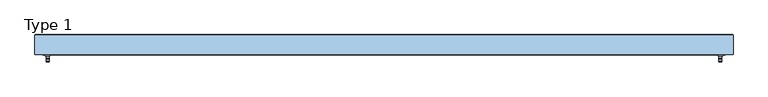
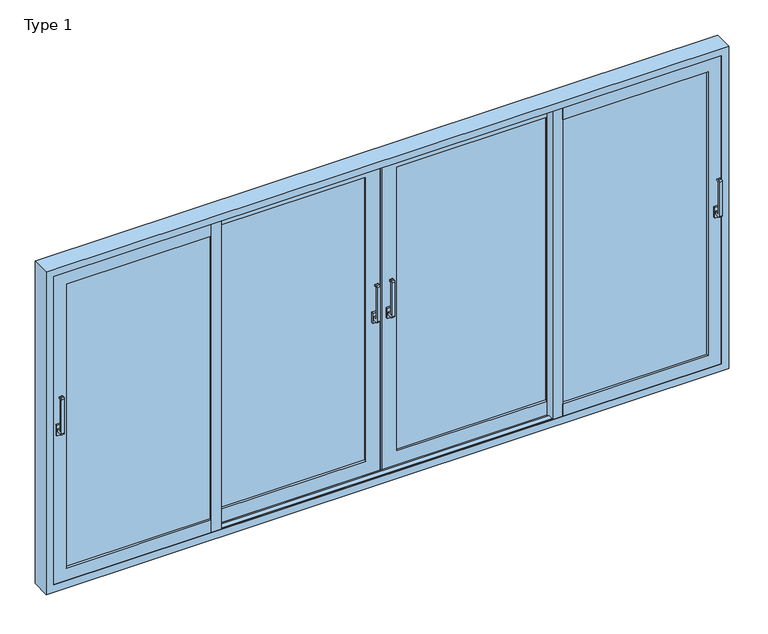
"""IFC4 building model written with IfcOpenShell, lengths in millimetres: window geometry, ETEM_E50_Quadruple_Lift_Sliding_NI : Type 1."""

import ifcopenshell
import ifcopenshell.guid

model = None  # the IFC model being written
_history = None  # IfcOwnerHistory: only IFC2X3 demands one
_inside = {}  # id of a spatial element -> (the spatial element, [elements in it])
_under = {}  # id of a project, library or spatial element -> (it, [spatial elements below it])
_declared = {}  # id of a project -> (the project, [libraries it declares])
_typed = {}  # id of a type object -> (the type object, [elements of that type])
_made_of = {}  # id of a material, layer set ... -> (it, [elements and type objects made of it])


def new_model(schema):
    """Start an empty IFC model of exactly this schema.

    Asked for "IFC4X3", IfcOpenShell would pick the latest addendum, in which some entities
    have other attributes; the version numbers below select the first issue.
    IFC2X3 requires an IfcOwnerHistory on every rooted entity: one is made here for all.
    """
    global model, _history
    if schema == "IFC4X3":
        model = ifcopenshell.file(schema_version=(4, 3, 0, 0))
    else:
        model = ifcopenshell.file(schema=schema)
    _inside.clear()
    _under.clear()
    _declared.clear()
    _typed.clear()
    _made_of.clear()
    _history = None
    if model.schema == "IFC2X3":
        org = make("IfcOrganization", Name="unknown")
        user = make(
            "IfcPersonAndOrganization",
            ThePerson=make("IfcPerson", FamilyName="unknown"),
            TheOrganization=org,
        )
        app = make(
            "IfcApplication",
            ApplicationDeveloper=org,
            Version="unknown",
            ApplicationFullName="unknown",
            ApplicationIdentifier="unknown",
        )
        _history = make(
            "IfcOwnerHistory",
            OwningUser=user,
            OwningApplication=app,
            ChangeAction="ADDED",
            CreationDate=0,
        )
    return model


def make(cls, **values):
    """One entity of the class cls with the attributes given. An attribute that is None is left unset."""
    return model.create_entity(
        cls, **{name: value for name, value in values.items() if value is not None}
    )


def rooted(cls, **values):
    """An entity with a GlobalId (a new one), such as an element, a storey or a relation."""
    return make(cls, GlobalId=ifcopenshell.guid.new(), OwnerHistory=_history, **values)


def si_unit(unit_type, name, prefix=None):
    """IfcSIUnit, for example si_unit("LENGTHUNIT", "METRE", prefix="MILLI")."""
    return make("IfcSIUnit", UnitType=unit_type, Prefix=prefix, Name=name)


def assignment(units):
    """IfcUnitAssignment: the units of a project."""
    return None if units is None else make("IfcUnitAssignment", Units=units)


def point(xyz):
    """IfcCartesianPoint."""
    return None if xyz is None else make("IfcCartesianPoint", Coordinates=xyz)


def direction(xyz):
    """IfcDirection."""
    return None if xyz is None else make("IfcDirection", DirectionRatios=xyz)


def frame(location, z_axis=None, x_axis=None):
    """IfcAxis2Placement3D, a coordinate frame: its origin and axes. An axis left out is left unset."""
    return make(
        "IfcAxis2Placement3D",
        Location=point(location),
        Axis=direction(z_axis),
        RefDirection=direction(x_axis),
    )


def frame_2d(location, x_axis=None):
    """IfcAxis2Placement2D, a coordinate frame in the plane: its origin and x axis."""
    return make(
        "IfcAxis2Placement2D", Location=point(location), RefDirection=direction(x_axis)
    )


def origin():
    """The frame at (0, 0, 0) with its axes left unset."""
    return frame((0.0, 0.0, 0.0))


def place(relative_to, where):
    """IfcLocalPlacement: puts the frame where relative to a parent placement (None: the world)."""
    return make(
        "IfcLocalPlacement", PlacementRelTo=relative_to, RelativePlacement=where
    )


def context(
    kind, dimensions, precision=None, world=None, true_north=None, identifier=None
):
    """IfcGeometricRepresentationContext, for example the 3D "Model" context."""
    return make(
        "IfcGeometricRepresentationContext",
        ContextIdentifier=identifier,
        ContextType=kind,
        CoordinateSpaceDimension=dimensions,
        Precision=precision,
        WorldCoordinateSystem=world,
        TrueNorth=true_north,
    )


def project(units=None, contexts=None):
    """IfcProject with its units and contexts."""
    return rooted(
        "IfcProject",
        Name="project",
        RepresentationContexts=contexts,
        UnitsInContext=assignment(units),
    )


def spatial(cls, under=None, at=None, **own):
    """A site, building, storey or space (cls), placed at a placement, below another one or the project."""
    s = rooted(cls, ObjectPlacement=at, **own)
    if under is not None:
        _under.setdefault(under.id(), (under, []))[1].append(s)
    return s


def polyline(points):
    """IfcPolyline through the points."""
    return make("IfcPolyline", Points=[point(p) for p in points])


def circle_curve(where, radius):
    """IfcCircle in the frame where."""
    return make("IfcCircle", Position=where, Radius=radius)


def trimmed(basis, trim1, trim2, sense, master):
    """IfcTrimmedCurve: the piece of a basis curve between two trims."""
    return make(
        "IfcTrimmedCurve",
        BasisCurve=basis,
        Trim1=trim1,
        Trim2=trim2,
        SenseAgreement=sense,
        MasterRepresentation=master,
    )


def segment(curve, same_sense, transition):
    """IfcCompositeCurveSegment."""
    return make(
        "IfcCompositeCurveSegment",
        Transition=transition,
        SameSense=same_sense,
        ParentCurve=curve,
    )


def composite_curve(segments, self_intersect=None):
    """IfcCompositeCurve: segments joined end to end."""
    return make("IfcCompositeCurve", Segments=segments, SelfIntersect=self_intersect)


def outline(outer, holes=None, kind="AREA"):
    """IfcArbitraryClosedProfileDef: a profile drawn as a closed curve; with holes, ...WithVoids."""
    if holes is None:
        return make("IfcArbitraryClosedProfileDef", ProfileType=kind, OuterCurve=outer)
    return make(
        "IfcArbitraryProfileDefWithVoids",
        ProfileType=kind,
        OuterCurve=outer,
        InnerCurves=holes,
    )


def extrude(swept, where, along, depth):
    """IfcExtrudedAreaSolid: the profile swept, set in the frame where, extruded along a direction by depth."""
    return make(
        "IfcExtrudedAreaSolid",
        SweptArea=swept,
        Position=where,
        ExtrudedDirection=direction(along),
        Depth=depth,
    )


def faces_of(points, faces, orient=None, outer=None):
    """IfcFace entities. A face is a list of loops; a loop is a list of indices into points, from 0.

    orient and outer hold one flag for each loop. By default every Orientation is true, the
    first loop of a face is its IfcFaceOuterBound and the others are IfcFaceBound.
    """
    made = []
    for i, loops in enumerate(faces):
        bounds = []
        for j, loop in enumerate(loops):
            is_outer = j == 0 if outer is None else outer[i][j]
            bounds.append(
                make(
                    "IfcFaceOuterBound" if is_outer else "IfcFaceBound",
                    Bound=make("IfcPolyLoop", Polygon=[points[k] for k in loop]),
                    Orientation=True if orient is None else orient[i][j],
                )
            )
        made.append(make("IfcFace", Bounds=bounds))
    return made


def faceted_brep(points, faces, orient=None, outer=None, voids=None):
    """IfcFacetedBrep: a solid bounded by flat faces; with voids (closed shells), ...WithVoids."""
    shared = [point(p) for p in points]
    hull = make("IfcClosedShell", CfsFaces=faces_of(shared, faces, orient, outer))
    if voids is None:
        return make("IfcFacetedBrep", Outer=hull)
    return make(
        "IfcFacetedBrepWithVoids",
        Outer=hull,
        Voids=[
            make(cls, CfsFaces=faces_of(shared, fs, o, b)) for cls, fs, o, b in voids
        ],
    )


def shape(context_of_items, identifier, shape_type, items):
    """IfcShapeRepresentation: the items that make up one representation, for example the "Body"."""
    return make(
        "IfcShapeRepresentation",
        ContextOfItems=context_of_items,
        RepresentationIdentifier=identifier,
        RepresentationType=shape_type,
        Items=items,
    )


def source(mapping_origin, context_of_items, identifier, shape_type, items):
    """IfcRepresentationMap: a shape defined once, which mapped items show again and again."""
    return make(
        "IfcRepresentationMap",
        MappingOrigin=mapping_origin,
        MappedRepresentation=shape(context_of_items, identifier, shape_type, items),
    )


def transform(
    local_origin,
    x_axis=None,
    y_axis=None,
    z_axis=None,
    scale=None,
    scale2=None,
    scale3=None,
    uniform=True,
):
    """IfcCartesianTransformationOperator3D, or its non-uniform kind. x_axis, y_axis, z_axis: its Axis1, 2, 3."""
    if uniform:
        return make(
            "IfcCartesianTransformationOperator3D",
            Axis1=direction(x_axis),
            Axis2=direction(y_axis),
            LocalOrigin=point(local_origin),
            Scale=scale,
            Axis3=direction(z_axis),
        )
    return make(
        "IfcCartesianTransformationOperator3DnonUniform",
        Axis1=direction(x_axis),
        Axis2=direction(y_axis),
        LocalOrigin=point(local_origin),
        Scale=scale,
        Axis3=direction(z_axis),
        Scale2=scale2,
        Scale3=scale3,
    )


def mapped(mapping_source, mapping_target):
    """IfcMappedItem: shows the shape of a source again, moved by a transform."""
    return make(
        "IfcMappedItem", MappingSource=mapping_source, MappingTarget=mapping_target
    )


def made_of(thing, what):
    """Note that an element or type object is made of a material, layer set ...; save() writes the relation."""
    if what is not None:
        _made_of.setdefault(what.id(), (what, []))[1].append(thing)
    return thing


def element(
    cls,
    number,
    at=None,
    inside=None,
    cuts=None,
    type_object=None,
    material=None,
    context=None,
    identifier="Body",
    shape_type=None,
    held_by="IfcProductDefinitionShape",
    body=None,
    shapes=None,
    **own,
):
    """One element of the class cls, such as IfcWall. Its Tag is "e" and its number.

    at: its placement. inside: the storey or other place that contains it. cuts: it is an
    opening in that element (IfcRelVoidsElement). A single representation is given by context,
    identifier, shape_type and body (its items); several are given by shapes. held_by: the class
    of the entity that holds the representations. save() writes the other relations.
    """
    e = rooted(cls, Tag="e%d" % number, ObjectPlacement=at, **own)
    if body is not None:
        shapes = [shape(context, identifier, shape_type, body)]
    if shapes is not None:
        e.Representation = make(held_by, Representations=shapes)
    if inside is not None:
        _inside.setdefault(inside.id(), (inside, []))[1].append(e)
    if cuts is not None:
        rooted(
            "IfcRelVoidsElement", RelatingBuildingElement=cuts, RelatedOpeningElement=e
        )
    if type_object is not None:
        _typed.setdefault(type_object.id(), (type_object, []))[1].append(e)
    return made_of(e, material)


def aggregate(whole, parts):
    """IfcRelAggregates: a whole, such as a stair, and the parts it consists of."""
    return rooted("IfcRelAggregates", RelatingObject=whole, RelatedObjects=parts)


def save(model, path):
    """Write the relations noted so far, then the file.

    IfcRelAggregates (storeys below a building ...), IfcRelContainedInSpatialStructure (elements
    in a storey), IfcRelDefinesByType, IfcRelAssociatesMaterial and IfcRelDeclares: one each for
    every whole, place, type object, material and project.
    """
    for whole, parts in _under.values():
        aggregate(whole, parts)
    for where, things in _inside.values():
        rooted(
            "IfcRelContainedInSpatialStructure",
            RelatedElements=things,
            RelatingStructure=where,
        )
    for kind, things in _typed.values():
        rooted("IfcRelDefinesByType", RelatedObjects=things, RelatingType=kind)
    for what, things in _made_of.values():
        rooted("IfcRelAssociatesMaterial", RelatedObjects=things, RelatingMaterial=what)
    for by, libraries in _declared.values():
        rooted("IfcRelDeclares", RelatingContext=by, RelatedDefinitions=libraries)
    model.write(path)


def type_1_0126e756(model_context):
    return source(origin(), model_context, "Body", "SolidModel", [
        extrude(outline(composite_curve([segment(polyline([(-28.6518056, 1090.0), (-60.2254904, 1090.0)]), True, "CONTINUOUS"), segment(trimmed(circle_curve(frame_2d((-60.2254904, 1098.4263152)), 8.4263152), [point((-60.2254904, 1090.0))], [point((-68.6518056, 1098.4263152))], False, "CARTESIAN"), True, "CONTINUOUS"), segment(polyline([(-68.6518056, 1098.4263152), (-68.6518056, 1331.5736848)]), True, "CONTINUOUS"), segment(trimmed(circle_curve(frame_2d((-60.2254904, 1331.5736848)), 8.4263152), [point((-68.6518056, 1331.5736848))], [point((-60.2254904, 1340.0))], False, "CARTESIAN"), True, "CONTINUOUS"), segment(polyline([(-60.2254904, 1340.0), (-48.6518056, 1340.0)]), True, "CONTINUOUS"), segment(trimmed(circle_curve(frame_2d((-48.6518056, 1335.0)), 5.0), [point((-48.6518056, 1340.0))], [point((-48.6518056, 1330.0))], False, "CARTESIAN"), True, "CONTINUOUS"), segment(polyline([(-48.6518056, 1330.0), (-55.1162717, 1330.0)]), True, "CONTINUOUS"), segment(trimmed(circle_curve(frame_2d((-55.1162717, 1326.4644661)), 3.5355339), [point((-55.1162717, 1330.0))], [point((-58.6518056, 1326.4644661))], True, "CARTESIAN"), True, "CONTINUOUS"), segment(polyline([(-58.6518056, 1326.4644661), (-58.6518056, 1113.5355339)]), True, "CONTINUOUS"), segment(trimmed(circle_curve(frame_2d((-55.1162717, 1113.5355339)), 3.5355339), [point((-58.6518056, 1113.5355339))], [point((-55.1162717, 1110.0))], True, "CARTESIAN"), True, "CONTINUOUS"), segment(polyline([(-55.1162717, 1110.0), (-28.6518056, 1110.0), (-28.6518056, 1090.0)]), True, "CONTINUOUS")], self_intersect=False)), frame((2109.999965, 0.0, 0.0), z_axis=(1.0, 0.0, 0.0), x_axis=(0.0, 1.0, 0.0)), (0.0, 0.0, 1.0), 20.0),
        extrude(outline(polyline([(2104.999965, -28.6518056), (2104.999965, -15.6518056), (2134.999965, -15.6518056), (2134.999965, -28.6518056), (2104.999965, -28.6518056)])), frame((0.0, 0.0, 1065.0), z_axis=(0.0, 0.0, 1.0), x_axis=(1.0, 0.0, 0.0)), (0.0, 0.0, 1.0), 70.0),
        extrude(outline(composite_curve([segment(polyline([(-28.6518056, 1090.0), (-60.2254904, 1090.0)]), True, "CONTINUOUS"), segment(trimmed(circle_curve(frame_2d((-60.2254904, 1098.4263152)), 8.4263152), [point((-60.2254904, 1090.0))], [point((-68.6518056, 1098.4263152))], False, "CARTESIAN"), True, "CONTINUOUS"), segment(polyline([(-68.6518056, 1098.4263152), (-68.6518056, 1331.5736848)]), True, "CONTINUOUS"), segment(trimmed(circle_curve(frame_2d((-60.2254904, 1331.5736848)), 8.4263152), [point((-68.6518056, 1331.5736848))], [point((-60.2254904, 1340.0))], False, "CARTESIAN"), True, "CONTINUOUS"), segment(polyline([(-60.2254904, 1340.0), (-48.6518056, 1340.0)]), True, "CONTINUOUS"), segment(trimmed(circle_curve(frame_2d((-48.6518056, 1335.0)), 5.0), [point((-48.6518056, 1340.0))], [point((-48.6518056, 1330.0))], False, "CARTESIAN"), True, "CONTINUOUS"), segment(polyline([(-48.6518056, 1330.0), (-55.1162717, 1330.0)]), True, "CONTINUOUS"), segment(trimmed(circle_curve(frame_2d((-55.1162717, 1326.4644661)), 3.5355339), [point((-55.1162717, 1330.0))], [point((-58.6518056, 1326.4644661))], True, "CARTESIAN"), True, "CONTINUOUS"), segment(polyline([(-58.6518056, 1326.4644661), (-58.6518056, 1113.5355339)]), True, "CONTINUOUS"), segment(trimmed(circle_curve(frame_2d((-55.1162717, 1113.5355339)), 3.5355339), [point((-58.6518056, 1113.5355339))], [point((-55.1162717, 1110.0))], True, "CARTESIAN"), True, "CONTINUOUS"), segment(polyline([(-55.1162717, 1110.0), (-28.6518056, 1110.0), (-28.6518056, 1090.0)]), True, "CONTINUOUS")], self_intersect=False)), frame((-2129.999965, 0.0, 0.0), z_axis=(1.0, 0.0, 0.0), x_axis=(0.0, 1.0, 0.0)), (0.0, 0.0, 1.0), 20.0),
        extrude(outline(polyline([(-2134.999965, -28.6518056), (-2134.999965, -15.6518056), (-2104.999965, -15.6518056), (-2104.999965, -28.6518056), (-2134.999965, -28.6518056)])), frame((0.0, 0.0, 1065.0), z_axis=(0.0, 0.0, 1.0), x_axis=(1.0, 0.0, 0.0)), (0.0, 0.0, 1.0), 70.0),
        extrude(outline(composite_curve([segment(polyline([(36.3364319, 1090.0), (4.7627471, 1090.0)]), True, "CONTINUOUS"), segment(trimmed(circle_curve(frame_2d((4.7627471, 1098.4263152)), 8.4263152), [point((4.7627471, 1090.0))], [point((-3.6635681, 1098.4263152))], False, "CARTESIAN"), True, "CONTINUOUS"), segment(polyline([(-3.6635681, 1098.4263152), (-3.6635681, 1331.5736848)]), True, "CONTINUOUS"), segment(trimmed(circle_curve(frame_2d((4.7627471, 1331.5736848)), 8.4263152), [point((-3.6635681, 1331.5736848))], [point((4.7627471, 1340.0))], False, "CARTESIAN"), True, "CONTINUOUS"), segment(polyline([(4.7627471, 1340.0), (16.3364319, 1340.0)]), True, "CONTINUOUS"), segment(trimmed(circle_curve(frame_2d((16.3364319, 1335.0)), 5.0), [point((16.3364319, 1340.0))], [point((16.3364319, 1330.0))], False, "CARTESIAN"), True, "CONTINUOUS"), segment(polyline([(16.3364319, 1330.0), (9.8719658, 1330.0)]), True, "CONTINUOUS"), segment(trimmed(circle_curve(frame_2d((9.8719658, 1326.4644661)), 3.5355339), [point((9.8719658, 1330.0))], [point((6.3364319, 1326.4644661))], True, "CARTESIAN"), True, "CONTINUOUS"), segment(polyline([(6.3364319, 1326.4644661), (6.3364319, 1113.5355339)]), True, "CONTINUOUS"), segment(trimmed(circle_curve(frame_2d((9.8719658, 1113.5355339)), 3.5355339), [point((6.3364319, 1113.5355339))], [point((9.8719658, 1110.0))], True, "CARTESIAN"), True, "CONTINUOUS"), segment(polyline([(9.8719658, 1110.0), (36.3364319, 1110.0), (36.3364319, 1090.0)]), True, "CONTINUOUS")], self_intersect=False)), frame((-57.5, 0.0, 0.0), z_axis=(1.0, 0.0, 0.0), x_axis=(0.0, 1.0, 0.0)), (0.0, 0.0, 1.0), 20.0),
        extrude(outline(polyline([(-62.5, 36.3364319), (-62.5, 49.3364319), (-32.5, 49.3364319), (-32.5, 36.3364319), (-62.5, 36.3364319)])), frame((0.0, 0.0, 1065.0), z_axis=(0.0, 0.0, 1.0), x_axis=(1.0, 0.0, 0.0)), (0.0, 0.0, 1.0), 70.0),
        extrude(outline(composite_curve([segment(polyline([(36.3364319, 1090.0), (4.7627471, 1090.0)]), True, "CONTINUOUS"), segment(trimmed(circle_curve(frame_2d((4.7627471, 1098.4263152)), 8.4263152), [point((4.7627471, 1090.0))], [point((-3.6635681, 1098.4263152))], False, "CARTESIAN"), True, "CONTINUOUS"), segment(polyline([(-3.6635681, 1098.4263152), (-3.6635681, 1331.5736848)]), True, "CONTINUOUS"), segment(trimmed(circle_curve(frame_2d((4.7627471, 1331.5736848)), 8.4263152), [point((-3.6635681, 1331.5736848))], [point((4.7627471, 1340.0))], False, "CARTESIAN"), True, "CONTINUOUS"), segment(polyline([(4.7627471, 1340.0), (16.3364319, 1340.0)]), True, "CONTINUOUS"), segment(trimmed(circle_curve(frame_2d((16.3364319, 1335.0)), 5.0), [point((16.3364319, 1340.0))], [point((16.3364319, 1330.0))], False, "CARTESIAN"), True, "CONTINUOUS"), segment(polyline([(16.3364319, 1330.0), (9.8719658, 1330.0)]), True, "CONTINUOUS"), segment(trimmed(circle_curve(frame_2d((9.8719658, 1326.4644661)), 3.5355339), [point((9.8719658, 1330.0))], [point((6.3364319, 1326.4644661))], True, "CARTESIAN"), True, "CONTINUOUS"), segment(polyline([(6.3364319, 1326.4644661), (6.3364319, 1113.5355339)]), True, "CONTINUOUS"), segment(trimmed(circle_curve(frame_2d((9.8719658, 1113.5355339)), 3.5355339), [point((6.3364319, 1113.5355339))], [point((9.8719658, 1110.0))], True, "CARTESIAN"), True, "CONTINUOUS"), segment(polyline([(9.8719658, 1110.0), (36.3364319, 1110.0), (36.3364319, 1090.0)]), True, "CONTINUOUS")], self_intersect=False)), frame((37.5, 0.0, 0.0), z_axis=(1.0, 0.0, 0.0), x_axis=(0.0, 1.0, 0.0)), (0.0, 0.0, 1.0), 20.0),
        extrude(outline(polyline([(62.5, 36.3364319), (32.5, 36.3364319), (32.5, 49.3364319), (62.5, 49.3364319), (62.5, 36.3364319)])), frame((0.0, 0.0, 1065.0), z_axis=(0.0, 0.0, 1.0), x_axis=(1.0, 0.0, 0.0)), (0.0, 0.0, 1.0), 70.0),
        faceted_brep([(1067.5, 99.3364319, 131.0), (1067.5, 49.3364319, 131.0), (1067.5, 49.3364319, 39.5), (1067.5, 54.0364319, 39.5), (1067.5, 54.0364319, 68.7), (1067.5, 94.6364319, 68.7), (1067.5, 94.6364319, 39.5), (1067.5, 99.3364319, 39.5), (1067.5, 99.3364319, 2069.0), (1067.5, 99.3364319, 2160.5), (1067.5, 94.6364319, 2160.5), (1067.5, 94.6364319, 2131.3), (1067.5, 54.0364319, 2131.3), (1067.5, 54.0364319, 2160.5), (1067.5, 49.3364319, 2160.5), (1067.5, 49.3364319, 2069.0), (98.5, 99.3364319, 131.0), (98.5, 49.3364319, 131.0), (98.5, 49.3364319, 2069.0), (7.0, 49.3364319, 2160.5), (7.0, 49.3364319, 39.5), (7.0, 54.0364319, 39.5), (7.0, 54.0364319, 2160.5), (36.2, 54.0364319, 2131.3), (36.2, 54.0364319, 68.7), (36.2, 94.6364319, 68.7), (36.2, 94.6364319, 2131.3), (7.0, 94.6364319, 2160.5), (7.0, 94.6364319, 39.5), (7.0, 99.3364319, 39.5), (7.0, 99.3364319, 2160.5), (98.5, 99.3364319, 2069.0)], [[[0, 1, 2, 3, 4, 5, 6, 7]], [[8, 9, 10, 11, 12, 13, 14, 15]], [[1, 0, 16, 17]], [[2, 1, 17, 18, 15, 14, 19, 20]], [[3, 2, 20, 21]], [[4, 3, 21, 22, 13, 12, 23, 24]], [[5, 4, 24, 25]], [[6, 5, 25, 26, 11, 10, 27, 28]], [[7, 6, 28, 29]], [[0, 7, 29, 30, 9, 8, 31, 16]], [[17, 16, 31, 18]], [[21, 20, 19, 22]], [[25, 24, 23, 26]], [[29, 28, 27, 30]], [[18, 31, 8, 15]], [[22, 19, 14, 13]], [[26, 23, 12, 11]], [[30, 27, 10, 9]]]),
        extrude(outline(polyline([(98.5, 91.3215999), (1067.5, 91.3215999), (1067.5, 86.3215999), (98.5, 86.3215999), (98.5, 91.3215999)])), frame((0.0, 0.0, 131.0), z_axis=(0.0, 0.0, 1.0), x_axis=(1.0, 0.0, 0.0)), (0.0, 0.0, 1.0), 1938.0),
        extrude(outline(polyline([(1132.5, 26.3481944), (2068.999965, 26.3481944), (2068.999965, 21.3481944), (1132.5, 21.3481944), (1132.5, 26.3481944)])), frame((0.0, 0.0, 131.0), z_axis=(0.0, 0.0, 1.0), x_axis=(1.0, 0.0, 0.0)), (0.0, 0.0, 1.0), 1938.0),
        extrude(outline(polyline([(98.5, 70.321721), (1067.5, 70.321721), (1067.5, 65.321721), (98.5, 65.321721), (98.5, 70.321721)])), frame((0.0, 0.0, 131.0), z_axis=(0.0, 0.0, 1.0), x_axis=(1.0, 0.0, 0.0)), (0.0, 0.0, 1.0), 1938.0),
        extrude(outline(polyline([(1132.5, 5.3481944), (2068.999965, 5.3481944), (2068.999965, 0.3481944), (1132.5, 0.3481944), (1132.5, 5.3481944)])), frame((0.0, 0.0, 131.0), z_axis=(0.0, 0.0, 1.0), x_axis=(1.0, 0.0, 0.0)), (0.0, 0.0, 1.0), 1938.0),
        faceted_brep([(-1067.3591001, 99.3364319, 131.0), (-1067.3591001, 99.3364319, 39.5), (-1067.3591001, 94.6364319, 39.5), (-1067.3591001, 94.6364319, 68.7), (-1067.3591001, 54.0364319, 68.7), (-1067.3591001, 54.0364319, 39.5), (-1067.3591001, 49.3364319, 39.5), (-1067.3591001, 49.3364319, 131.0), (-1067.3591001, 99.3364319, 2069.0), (-1067.3591001, 49.3364319, 2069.0), (-1067.3591001, 49.3364319, 2160.5), (-1067.3591001, 54.0364319, 2160.5), (-1067.3591001, 54.0364319, 2131.3), (-1067.3591001, 94.6364319, 2131.3), (-1067.3591001, 94.6364319, 2160.5), (-1067.3591001, 99.3364319, 2160.5), (-7.0, 99.3364319, 2160.5), (-7.0, 99.3364319, 39.5), (-98.5, 99.3364319, 131.0), (-98.5, 99.3364319, 2069.0), (-7.0, 94.6364319, 39.5), (-36.2, 94.6364319, 2131.3), (-36.2, 94.6364319, 68.7), (-7.0, 94.6364319, 2160.5), (-36.2, 54.0364319, 68.7), (-7.0, 54.0364319, 2160.5), (-7.0, 54.0364319, 39.5), (-36.2, 54.0364319, 2131.3), (-7.0, 49.3364319, 39.5), (-98.5, 49.3364319, 2069.0), (-98.5, 49.3364319, 131.0), (-7.0, 49.3364319, 2160.5)], [[[0, 1, 2, 3, 4, 5, 6, 7]], [[8, 9, 10, 11, 12, 13, 14, 15]], [[8, 15, 16, 17, 1, 0, 18, 19]], [[17, 20, 2, 1]], [[14, 13, 21, 22, 3, 2, 20, 23]], [[22, 24, 4, 3]], [[12, 11, 25, 26, 5, 4, 24, 27]], [[26, 28, 6, 5]], [[10, 9, 29, 30, 7, 6, 28, 31]], [[30, 18, 0, 7]], [[29, 19, 18, 30]], [[25, 31, 28, 26]], [[21, 27, 24, 22]], [[16, 23, 20, 17]], [[9, 8, 19, 29]], [[11, 10, 31, 25]], [[13, 12, 27, 21]], [[15, 14, 23, 16]]]),
        extrude(outline(polyline([(-1067.3591001, 91.3480733), (-98.5, 91.3480733), (-98.5, 86.3480733), (-1067.3591001, 86.3480733), (-1067.3591001, 91.3480733)])), frame((0.0, 0.0, 131.0), z_axis=(0.0, 0.0, 1.0), x_axis=(1.0, 0.0, 0.0)), (0.0, 0.0, 1.0), 1938.0),
        extrude(outline(polyline([(-1067.3591001, 70.3481944), (-98.5, 70.3481944), (-98.5, 65.3481944), (-1067.3591001, 65.3481944), (-1067.3591001, 70.3481944)])), frame((0.0, 0.0, 131.0), z_axis=(0.0, 0.0, 1.0), x_axis=(1.0, 0.0, 0.0)), (0.0, 0.0, 1.0), 1938.0),
        extrude(outline(polyline([(-1067.3591001, -15.6518056), (-1132.3591001, -15.6518056), (-1132.3591001, 34.3481944), (-1097.3091001, 34.3481944), (-1097.3091001, 41.8740972), (-1100.0, 41.8740972), (-1100.0, 43.7481944), (-1095.4591001, 43.7481944), (-1095.4591001, 39.0481944), (-1084.1091001, 39.0481944), (-1084.1091001, 45.3481944), (-1067.3591001, 45.3481944), (-1067.3591001, -15.6518056)])), frame((0.0, 0.0, 39.5), z_axis=(0.0, 0.0, 1.0), x_axis=(1.0, 0.0, 0.0)), (0.0, 0.0, 1.0), 2121.0),
        extrude(outline(polyline([(-2068.999965, 26.3480733), (-1132.3591001, 26.3480733), (-1132.3591001, 21.3480733), (-2068.999965, 21.3480733), (-2068.999965, 26.3480733)])), frame((0.0, 0.0, 131.0), z_axis=(0.0, 0.0, 1.0), x_axis=(1.0, 0.0, 0.0)), (0.0, 0.0, 1.0), 1938.0),
        extrude(outline(polyline([(-2068.999965, 5.3481944), (-1132.3591001, 5.3481944), (-1132.3591001, 0.3481944), (-2068.999965, 0.3481944), (-2068.999965, 5.3481944)])), frame((0.0, 0.0, 131.0), z_axis=(0.0, 0.0, 1.0), x_axis=(1.0, 0.0, 0.0)), (0.0, 0.0, 1.0), 1938.0),
        extrude(outline(polyline([(3.5, 58.3364319), (3.5, 49.3364319), (-7.0, 49.3364319), (-7.0, 99.3364319), (3.5, 99.3364319), (3.5, 90.3364319), (16.0, 90.3364319), (16.0, 58.3364319), (3.5, 58.3364319)])), frame((0.0, 0.0, 39.5188293), z_axis=(0.0, 0.0, 1.0), x_axis=(1.0, 0.0, 0.0)), (0.0, 0.0, 1.0), 2120.9623414),
        faceted_brep([(1132.5, 34.3481944, 131.0), (1132.5, 34.3481944, 39.5), (1132.5, 29.6481944, 39.5), (1132.5, 29.6481944, 68.7), (1132.5, -10.9518056, 68.7), (1132.5, -10.9518056, 39.5), (1132.5, -15.6518056, 39.5), (1132.5, -15.6518056, 131.0), (1132.5, 34.3481944, 2069.0), (1132.5, -15.6518056, 2069.0), (1132.5, -15.6518056, 2160.5), (1132.5, -10.9518056, 2160.5), (1132.5, -10.9518056, 2131.3), (1132.5, 29.6481944, 2131.3), (1132.5, 29.6481944, 2160.5), (1132.5, 34.3481944, 2160.5), (2160.499965, 34.3481944, 2160.5), (2160.499965, 34.3481944, 39.5), (2068.999965, 34.3481944, 131.0), (2068.999965, 34.3481944, 2069.0), (2160.499965, 29.6481944, 39.5), (2131.299965, 29.6481944, 2131.3), (2131.299965, 29.6481944, 68.7), (2160.499965, 29.6481944, 2160.5), (2131.299965, -10.9518056, 68.7), (2160.499965, -10.9518056, 2160.5), (2160.499965, -10.9518056, 39.5), (2131.299965, -10.9518056, 2131.3), (2160.499965, -15.6518056, 39.5), (2068.999965, -15.6518056, 2069.0), (2068.999965, -15.6518056, 131.0), (2160.499965, -15.6518056, 2160.5)], [[[0, 1, 2, 3, 4, 5, 6, 7]], [[8, 9, 10, 11, 12, 13, 14, 15]], [[8, 15, 16, 17, 1, 0, 18, 19]], [[17, 20, 2, 1]], [[14, 13, 21, 22, 3, 2, 20, 23]], [[22, 24, 4, 3]], [[12, 11, 25, 26, 5, 4, 24, 27]], [[26, 28, 6, 5]], [[10, 9, 29, 30, 7, 6, 28, 31]], [[30, 18, 0, 7]], [[29, 19, 18, 30]], [[25, 31, 28, 26]], [[21, 27, 24, 22]], [[16, 23, 20, 17]], [[9, 8, 19, 29]], [[11, 10, 31, 25]], [[13, 12, 27, 21]], [[15, 14, 23, 16]]]),
        faceted_brep([(-1132.3591001, 34.3481944, 131.0), (-1132.3591001, -15.6518056, 131.0), (-1132.3591001, -15.6518056, 39.5), (-1132.3591001, -10.9518056, 39.5), (-1132.3591001, -10.9518056, 68.7), (-1132.3591001, 29.6481944, 68.7), (-1132.3591001, 29.6481944, 39.5), (-1132.3591001, 34.3481944, 39.5), (-1132.3591001, 34.3481944, 2069.0), (-1132.3591001, 34.3481944, 2160.5), (-1132.3591001, 29.6481944, 2160.5), (-1132.3591001, 29.6481944, 2131.3), (-1132.3591001, -10.9518056, 2131.3), (-1132.3591001, -10.9518056, 2160.5), (-1132.3591001, -15.6518056, 2160.5), (-1132.3591001, -15.6518056, 2069.0), (-2068.999965, 34.3481944, 131.0), (-2068.999965, -15.6518056, 131.0), (-2160.499965, -15.6518056, 2160.5), (-2160.499965, -15.6518056, 39.5), (-2068.999965, -15.6518056, 2069.0), (-2160.499965, -10.9518056, 39.5), (-2131.299965, -10.9518056, 2131.3), (-2131.299965, -10.9518056, 68.7), (-2160.499965, -10.9518056, 2160.5), (-2131.299965, 29.6481944, 68.7), (-2160.499965, 29.6481944, 2160.5), (-2160.499965, 29.6481944, 39.5), (-2131.299965, 29.6481944, 2131.3), (-2160.499965, 34.3481944, 39.5), (-2068.999965, 34.3481944, 2069.0), (-2160.499965, 34.3481944, 2160.5)], [[[0, 1, 2, 3, 4, 5, 6, 7]], [[8, 9, 10, 11, 12, 13, 14, 15]], [[16, 17, 1, 0]], [[15, 14, 18, 19, 2, 1, 17, 20]], [[19, 21, 3, 2]], [[13, 12, 22, 23, 4, 3, 21, 24]], [[23, 25, 5, 4]], [[11, 10, 26, 27, 6, 5, 25, 28]], [[27, 29, 7, 6]], [[9, 8, 30, 16, 0, 7, 29, 31]], [[30, 20, 17, 16]], [[26, 31, 29, 27]], [[22, 28, 25, 23]], [[18, 24, 21, 19]], [[10, 9, 31, 26]], [[12, 11, 28, 22]], [[14, 13, 24, 18]], [[8, 15, 20, 30]]]),
        faceted_brep([(-2196.5, 103.5481944, 0.0), (-2196.5, 105.0, 0.0), (-2151.5, 105.0, 0.0), (-2151.5, 103.5481944, 0.0), (2151.5, 103.5481944, 0.0), (2151.5, 105.0, 0.0), (2196.5, 105.0, 0.0), (2196.5, 103.5481944, 0.0), (2200.0, 103.5481944, 0.0), (2200.0, -21.2518056, 0.0), (-2200.0, -21.2518056, 0.0), (-2200.0, 103.5481944, 0.0), (-2151.5, 101.4, 2151.5), (2151.5, 101.4, 2151.5), (2151.5, 101.4, 19.8), (2178.2, 101.4, 19.8), (2178.2, 101.4, 2178.2), (-2178.2, 101.4, 2178.2), (-2178.2, 101.4, 19.8), (-2151.5, 101.4, 19.8), (-2196.5, 103.5481944, 2196.5), (-2196.5, 105.0, 2196.5), (2196.5, 105.0, 2196.5), (2151.5, 105.0, 2151.5), (-2151.5, 105.0, 2151.5), (-2151.5, 103.5481944, 19.8), (2151.5, 103.5481944, 19.8), (2196.5, 103.5481944, 2196.5), (2200.0, 103.5481944, 2200.0), (-2200.0, 103.5481944, 2200.0), (2200.0, -21.2518056, 2200.0), (-2200.0, -21.2518056, 2200.0), (2151.5, -21.2518056, 2151.5), (2151.5, -21.2518056, 48.5), (-2151.5, -21.2518056, 48.5), (-2151.5, -21.2518056, 2151.5), (2178.2, 78.8481944, 21.8), (2178.2, 92.0481944, 21.8), (-2178.2, 92.0481944, 21.8), (-2178.2, 78.8481944, 21.8), (2178.2, 78.8481944, 2178.2), (-2178.2, 78.8481944, 2178.2), (2159.5, 78.8481944, 40.5), (2159.5, 78.8481944, 2159.5), (-2159.5, 78.8481944, 2159.5), (-2159.5, 78.8481944, 40.5), (2159.5, 90.3481944, 2159.5), (2159.5, 90.3481944, 40.5), (-2159.5, 90.3481944, 40.5), (-2159.5, 90.3481944, 2159.5), (2151.5, 90.3481944, 48.5), (2151.5, 90.3481944, 2151.5), (-2151.5, 90.3481944, 2151.5), (-2151.5, 90.3481944, 48.5), (2151.5, 58.3481944, 2151.5), (2151.5, 58.3481944, 48.5), (-2151.5, 58.3481944, 48.5), (2159.5, 58.3481944, 40.5), (2159.5, 58.3481944, 2159.5), (-2159.5, 58.3481944, 2159.5), (-2159.5, 58.3481944, 40.5), (-2151.5, 58.3481944, 2151.5), (2159.5, 69.8481944, 2159.5), (2159.5, 69.8481944, 40.5), (-2159.5, 69.8481944, 40.5), (2178.2, 69.8481944, 21.8), (2178.2, 69.8481944, 2178.2), (-2178.2, 69.8481944, 2178.2), (-2178.2, 69.8481944, 21.8), (-2159.5, 69.8481944, 2159.5), (2178.2, 13.8481944, 2178.2), (2178.2, 13.8481944, 21.8), (-2178.2, 13.8481944, 21.8), (-2178.2, 13.8481944, 2178.2), (2159.5, 13.8481944, 40.5), (2159.5, 13.8481944, 2159.5), (-2159.5, 13.8481944, 2159.5), (-2159.5, 13.8481944, 40.5), (2159.5, 25.3481944, 2159.5), (2159.5, 25.3481944, 40.5), (-2159.5, 25.3481944, 40.5), (-2159.5, 25.3481944, 2159.5), (2151.5, 25.3481944, 48.5), (2151.5, 25.3481944, 2151.5), (-2151.5, 25.3481944, 2151.5), (-2151.5, 25.3481944, 48.5), (2151.5, -6.6518056, 2151.5), (2151.5, -6.6518056, 48.5), (-2151.5, -6.6518056, 48.5), (2159.5, -6.6518056, 40.5), (2159.5, -6.6518056, 2159.5), (-2159.5, -6.6518056, 2159.5), (-2159.5, -6.6518056, 40.5), (-2151.5, -6.6518056, 2151.5), (2159.5, 4.8481944, 2159.5), (2159.5, 4.8481944, 40.5), (-2159.5, 4.8481944, 40.5), (2178.2, 4.8481944, 21.8), (2178.2, 4.8481944, 2178.2), (-2178.2, 4.8481944, 2178.2), (-2178.2, 4.8481944, 21.8), (-2159.5, 4.8481944, 2159.5), (2178.2, -17.6518056, 2178.2), (2178.2, -17.6518056, 21.8), (-2178.2, -17.6518056, 21.8), (-2178.2, -17.6518056, 2178.2), (2151.5, -17.6518056, 48.5), (2151.5, -17.6518056, 2151.5), (-2151.5, -17.6518056, 2151.5), (-2151.5, -17.6518056, 48.5), (-2178.2, 92.0481944, 19.8), (2178.2, 92.0481944, 19.8)], [[[0, 1, 2, 3, 4, 5, 6, 7, 8, 9, 10, 11]], [[12, 13, 14, 15, 16, 17, 18, 19]], [[1, 0, 20, 21]], [[2, 1, 21, 22, 6, 5, 23, 24]], [[2, 24, 12, 19, 25, 3]], [[13, 23, 5, 4, 26, 14]], [[7, 6, 22, 27]], [[27, 22, 21, 20]], [[23, 13, 12, 24]], [[4, 3, 25, 26]], [[28, 8, 7, 27, 20, 0, 11, 29]], [[9, 30, 31, 10], [32, 33, 34, 35]], [[36, 37, 38, 39]], [[40, 36, 39, 41], [42, 43, 44, 45]], [[46, 43, 42, 47]], [[47, 42, 45, 48]], [[46, 47, 48, 49], [50, 51, 52, 53]], [[54, 51, 50, 55]], [[55, 50, 53, 56]], [[57, 58, 59, 60], [54, 55, 56, 61]], [[62, 58, 57, 63]], [[63, 57, 60, 64]], [[65, 66, 67, 68], [62, 63, 64, 69]], [[70, 66, 65, 71]], [[71, 65, 68, 72]], [[70, 71, 72, 73], [74, 75, 76, 77]], [[78, 75, 74, 79]], [[79, 74, 77, 80]], [[78, 79, 80, 81], [82, 83, 84, 85]], [[86, 83, 82, 87]], [[87, 82, 85, 88]], [[89, 90, 91, 92], [86, 87, 88, 93]], [[94, 90, 89, 95]], [[95, 89, 92, 96]], [[97, 98, 99, 100], [94, 95, 96, 101]], [[102, 98, 97, 103]], [[103, 97, 100, 104]], [[102, 103, 104, 105], [106, 107, 108, 109]], [[32, 107, 106, 33]], [[33, 106, 109, 34]], [[48, 45, 44, 49]], [[56, 53, 52, 61]], [[64, 60, 59, 69]], [[72, 68, 67, 73]], [[80, 77, 76, 81]], [[88, 85, 84, 93]], [[96, 92, 91, 101]], [[104, 100, 99, 105]], [[34, 109, 108, 35]], [[43, 46, 49, 44]], [[51, 54, 61, 52]], [[58, 62, 69, 59]], [[66, 70, 73, 67]], [[75, 78, 81, 76]], [[83, 86, 93, 84]], [[90, 94, 101, 91]], [[98, 102, 105, 99]], [[107, 32, 35, 108]], [[28, 30, 9, 8]], [[11, 10, 31, 29]], [[110, 111, 15, 14, 26, 25, 19, 18]], [[40, 16, 15, 111, 37, 36]], [[41, 39, 38, 110, 18, 17]], [[38, 37, 111, 110]], [[41, 17, 16, 40]], [[30, 28, 29, 31]]]),
        extrude(outline(polyline([(-1132.3591001, 99.3364319), (-1067.3591001, 99.3364319), (-1067.3591001, 49.3364319), (-1102.4091001, 49.3364319), (-1102.4091001, 41.8740972), (-1100.0, 41.8740972), (-1100.0, 39.9481944), (-1104.2591001, 39.9481944), (-1104.2591001, 44.6364319), (-1115.6091001, 44.6364319), (-1115.6091001, 38.3364319), (-1132.3591001, 38.3364319), (-1132.3591001, 99.3364319)])), frame((0.0, 0.0, 39.5), z_axis=(0.0, 0.0, 1.0), x_axis=(1.0, 0.0, 0.0)), (0.0, 0.0, 1.0), 2121.0),
        extrude(outline(polyline([(1067.5, -15.6518056), (1067.5, 45.3481944), (1084.25, 45.3481944), (1084.25, 39.0481944), (1095.6, 39.0481944), (1095.6, 43.7481944), (1100.0, 43.7481944), (1100.0, 41.8740972), (1097.45, 41.8740972), (1097.45, 34.3481944), (1132.5, 34.3481944), (1132.5, -15.6518056), (1067.5, -15.6518056)])), frame((0.0, 0.0, 39.5), z_axis=(0.0, 0.0, 1.0), x_axis=(1.0, 0.0, 0.0)), (0.0, 0.0, 1.0), 2121.0),
        extrude(outline(polyline([(1132.5, 99.3481944), (1132.5, 38.3481944), (1115.75, 38.3481944), (1115.75, 44.6481944), (1104.4, 44.6481944), (1104.4, 39.9481944), (1100.0, 39.9481944), (1100.0, 41.8740972), (1102.55, 41.8740972), (1102.55, 49.3481944), (1067.5, 49.3481944), (1067.5, 99.3481944), (1132.5, 99.3481944)])), frame((0.0, 0.0, 39.5), z_axis=(0.0, 0.0, 1.0), x_axis=(1.0, 0.0, 0.0)), (0.0, 0.0, 1.0), 2121.0),
    ])


if __name__ == "__main__":
    model = new_model("IFC4")
    model_context = context("Model", 3, world=origin())
    ifc_project = project(units=[si_unit("LENGTHUNIT", "METRE", prefix="MILLI")], contexts=[model_context])
    site = spatial("IfcSite", under=ifc_project)
    building = spatial("IfcBuilding", under=site)
    placement = place(None, origin())
    type_1_shape = type_1_0126e756(model_context)
    element("IfcWindow", 1, ObjectType="ETEM_E50_Quadruple_Lift_Sliding_NI : Type 1", at=placement, inside=building, context=model_context, shape_type="MappedRepresentation", body=[
        mapped(type_1_shape, transform((0.0, 0.0, 0.0), x_axis=(1.0, 0.0, 0.0), y_axis=(0.0, 1.0, 0.0), z_axis=(0.0, 0.0, 1.0))),
    ])
    save(model, "model.ifc")
